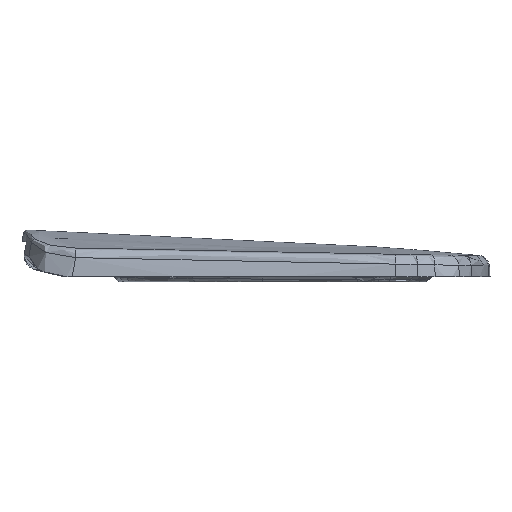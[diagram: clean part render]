
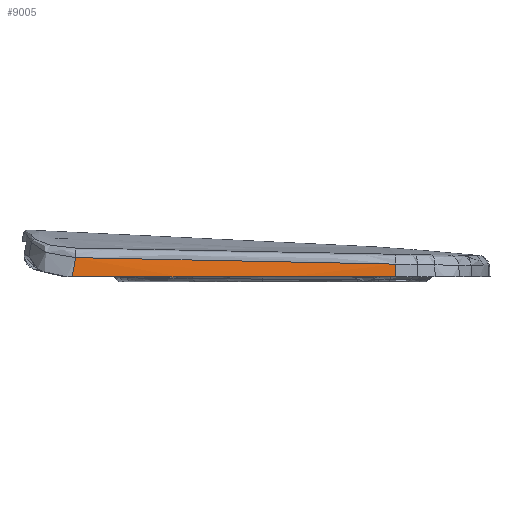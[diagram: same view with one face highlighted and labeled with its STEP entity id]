
A CAD part, left-side view. The second image highlights one B-rep face of the part: STEP entity #9005.
In plain terms, the highlighted conical face has half-angle 3 degrees and reference radius 8649.52 mm.
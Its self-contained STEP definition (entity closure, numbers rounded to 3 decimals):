
#139=CONICAL_SURFACE('',#9759,8649.521,0.052);
#1128=B_SPLINE_CURVE_WITH_KNOTS('',3,(#70085,#70086,#70087,#70088,#70089,
#70090,#70091,#70092,#70093,#70094),.UNSPECIFIED.,.F.,.F.,(4,3,3,4),(0.,
0.333,0.667,1.),.UNSPECIFIED.);
#1130=B_SPLINE_CURVE_WITH_KNOTS('',3,(#70590,#70591,#70592,#70593,#70594,
#70595,#70596,#70597,#70598,#70599,#70600,#70601,#70602,#70603,#70604,#70605,
#70606,#70607,#70608,#70609,#70610,#70611,#70612,#70613,#70614,#70615,#70616,
#70617,#70618,#70619,#70620,#70621,#70622,#70623,#70624,#70625,#70626,#70627,
#70628,#70629,#70630,#70631,#70632,#70633,#70634,#70635,#70636,#70637,#70638,
#70639),.UNSPECIFIED.,.F.,.F.,(4,2,2,2,2,2,2,2,1,1,2,1,1,2,2,2,2,2,2,2,
2,2,2,2,2,2,4),(0.,0.087,0.179,
0.262,0.338,0.406,0.468,
0.525,0.576,0.623,0.667,
0.706,0.742,0.75,0.775,0.806,
0.834,0.86,0.884,0.906,
0.926,0.945,0.962,0.977,
0.985,0.992,1.),.UNSPECIFIED.);
#1717=FACE_OUTER_BOUND('',#2286,.T.);
#2286=EDGE_LOOP('',(#7691,#7692,#7693,#7694));
#2478=LINE('',#70641,#2629);
#2629=VECTOR('',#11306,12.074);
#3105=CIRCLE('',#9734,8650.);
#3893=VERTEX_POINT('',#69522);
#3894=VERTEX_POINT('',#69524);
#3909=VERTEX_POINT('',#70084);
#3910=VERTEX_POINT('',#70588);
#5156=EDGE_CURVE('',#3893,#3894,#3105,.T.);
#5185=EDGE_CURVE('',#3909,#3894,#1128,.T.);
#5189=EDGE_CURVE('',#3909,#3910,#1130,.T.);
#5190=EDGE_CURVE('',#3910,#3893,#2478,.T.);
#7691=ORIENTED_EDGE('',*,*,#5185,.T.);
#7692=ORIENTED_EDGE('',*,*,#5156,.F.);
#7693=ORIENTED_EDGE('',*,*,#5190,.F.);
#7694=ORIENTED_EDGE('',*,*,#5189,.F.);
#9005=ADVANCED_FACE('',(#1717),#139,.T.);
#9734=AXIS2_PLACEMENT_3D('',#69525,#11250,#11251);
#9759=AXIS2_PLACEMENT_3D('',#70640,#11304,#11305);
#11250=DIRECTION('center_axis',(0.,0.,-1.));
#11251=DIRECTION('ref_axis',(-0.999,-0.042,0.));
#11304=DIRECTION('center_axis',(0.,0.,-1.));
#11305=DIRECTION('ref_axis',(-0.999,-0.042,0.));
#11306=DIRECTION('',(-0.052,-0.002,-0.999));
#69522=CARTESIAN_POINT('',(-170.489,-342.698,2.03));
#69524=CARTESIAN_POINT('',(-177.84,-33.28,2.03));
#69525=CARTESIAN_POINT('Origin',(8472.011,17.432,2.03));
#70084=CARTESIAN_POINT('',(-176.863,-36.605,20.295));
#70085=CARTESIAN_POINT('Ctrl Pts',(-176.863,-36.605,
20.295));
#70086=CARTESIAN_POINT('Ctrl Pts',(-176.963,-36.263,
18.417));
#70087=CARTESIAN_POINT('Ctrl Pts',(-177.066,-35.912,16.488));
#70088=CARTESIAN_POINT('Ctrl Pts',(-177.172,-35.552,
14.509));
#70089=CARTESIAN_POINT('Ctrl Pts',(-177.278,-35.192,
12.529));
#70090=CARTESIAN_POINT('Ctrl Pts',(-177.387,-34.822,
10.499));
#70091=CARTESIAN_POINT('Ctrl Pts',(-177.498,-34.443,
8.419));
#70092=CARTESIAN_POINT('Ctrl Pts',(-177.609,-34.065,
6.34));
#70093=CARTESIAN_POINT('Ctrl Pts',(-177.723,-33.677,
4.21));
#70094=CARTESIAN_POINT('Ctrl Pts',(-177.84,-33.28,
2.03));
#70588=CARTESIAN_POINT('',(-169.857,-342.673,14.087));
#70590=CARTESIAN_POINT('Ctrl Pts',(-176.863,-36.605,
20.295));
#70591=CARTESIAN_POINT('Ctrl Pts',(-176.816,-45.491,
20.116));
#70592=CARTESIAN_POINT('Ctrl Pts',(-176.757,-54.379,
19.929));
#70593=CARTESIAN_POINT('Ctrl Pts',(-176.606,-72.673,
19.547));
#70594=CARTESIAN_POINT('Ctrl Pts',(-176.513,-82.079,19.351));
#70595=CARTESIAN_POINT('Ctrl Pts',(-176.307,-99.972,
18.989));
#70596=CARTESIAN_POINT('Ctrl Pts',(-176.196,-108.459,
18.823));
#70597=CARTESIAN_POINT('Ctrl Pts',(-175.962,-124.624,18.512));
#70598=CARTESIAN_POINT('Ctrl Pts',(-175.84,-132.303,
18.367));
#70599=CARTESIAN_POINT('Ctrl Pts',(-175.588,-146.951,
18.088));
#70600=CARTESIAN_POINT('Ctrl Pts',(-175.459,-153.921,
17.954));
#70601=CARTESIAN_POINT('Ctrl Pts',(-175.199,-167.226,
17.687));
#70602=CARTESIAN_POINT('Ctrl Pts',(-175.068,-173.563,
17.555));
#70603=CARTESIAN_POINT('Ctrl Pts',(-174.805,-185.67,
17.3));
#70604=CARTESIAN_POINT('Ctrl Pts',(-174.674,-191.441,
17.176));
#70605=CARTESIAN_POINT('Ctrl Pts',(-174.413,-202.478,16.94));
#70606=CARTESIAN_POINT('Ctrl Pts',(-174.165,-212.554,
16.723));
#70607=CARTESIAN_POINT('Ctrl Pts',(-173.783,-227.029,
16.418));
#70608=CARTESIAN_POINT('Ctrl Pts',(-173.525,-236.239,16.228));
#70609=CARTESIAN_POINT('Ctrl Pts',(-173.282,-244.663,
16.056));
#70610=CARTESIAN_POINT('Ctrl Pts',(-173.055,-252.386,
15.9));
#70611=CARTESIAN_POINT('Ctrl Pts',(-172.792,-260.902,15.73));
#70612=CARTESIAN_POINT('Ctrl Pts',(-172.65,-265.392,
15.641));
#70613=CARTESIAN_POINT('Ctrl Pts',(-172.542,-268.785,
15.574));
#70614=CARTESIAN_POINT('Ctrl Pts',(-172.458,-271.384,
15.523));
#70615=CARTESIAN_POINT('Ctrl Pts',(-172.272,-277.104,
15.41));
#70616=CARTESIAN_POINT('Ctrl Pts',(-172.168,-280.225,
15.349));
#70617=CARTESIAN_POINT('Ctrl Pts',(-171.965,-286.216,
15.232));
#70618=CARTESIAN_POINT('Ctrl Pts',(-171.867,-289.084,
15.176));
#70619=CARTESIAN_POINT('Ctrl Pts',(-171.676,-294.596,
15.068));
#70620=CARTESIAN_POINT('Ctrl Pts',(-171.582,-297.24,15.017));
#70621=CARTESIAN_POINT('Ctrl Pts',(-171.401,-302.314,
14.916));
#70622=CARTESIAN_POINT('Ctrl Pts',(-171.314,-304.745,
14.868));
#70623=CARTESIAN_POINT('Ctrl Pts',(-171.143,-309.413,
14.774));
#70624=CARTESIAN_POINT('Ctrl Pts',(-171.061,-311.65,
14.729));
#70625=CARTESIAN_POINT('Ctrl Pts',(-170.9,-315.958,
14.642));
#70626=CARTESIAN_POINT('Ctrl Pts',(-170.822,-318.028,14.6));
#70627=CARTESIAN_POINT('Ctrl Pts',(-170.672,-321.986,
14.52));
#70628=CARTESIAN_POINT('Ctrl Pts',(-170.6,-323.875,
14.481));
#70629=CARTESIAN_POINT('Ctrl Pts',(-170.46,-327.493,
14.408));
#70630=CARTESIAN_POINT('Ctrl Pts',(-170.392,-329.223,
14.372));
#70631=CARTESIAN_POINT('Ctrl Pts',(-170.262,-332.555,
14.304));
#70632=CARTESIAN_POINT('Ctrl Pts',(-170.198,-334.158,
14.271));
#70633=CARTESIAN_POINT('Ctrl Pts',(-170.103,-336.552,
14.22));
#70634=CARTESIAN_POINT('Ctrl Pts',(-170.072,-337.344,
14.203));
#70635=CARTESIAN_POINT('Ctrl Pts',(-170.012,-338.828,
14.171));
#70636=CARTESIAN_POINT('Ctrl Pts',(-169.984,-339.519,
14.156));
#70637=CARTESIAN_POINT('Ctrl Pts',(-169.924,-341.031,14.123));
#70638=CARTESIAN_POINT('Ctrl Pts',(-169.89,-341.852,
14.105));
#70639=CARTESIAN_POINT('Ctrl Pts',(-169.857,-342.673,
14.087));
#70640=CARTESIAN_POINT('Origin',(8472.011,17.432,11.162));
#70641=CARTESIAN_POINT('',(-169.857,-342.673,14.087));
